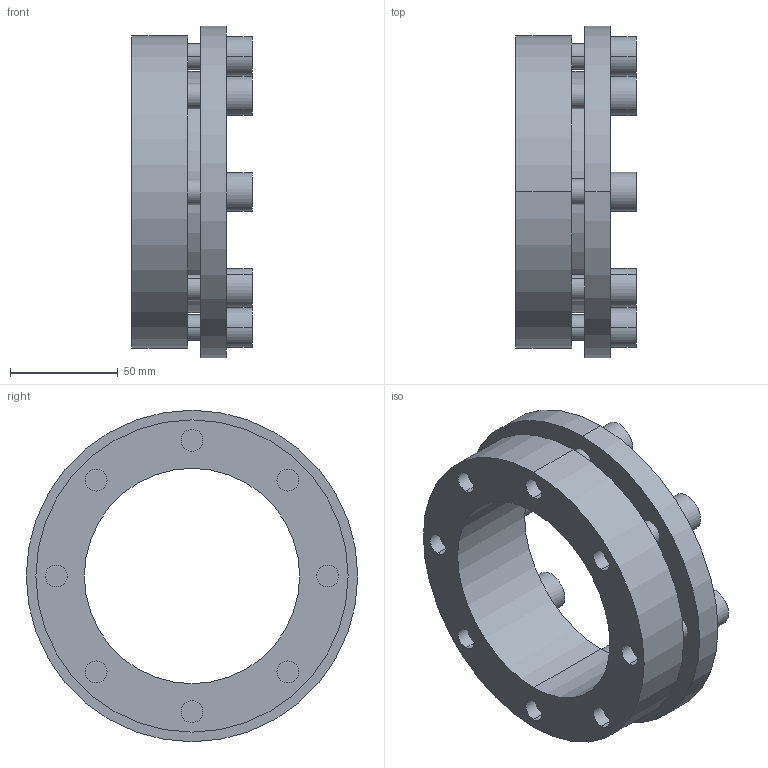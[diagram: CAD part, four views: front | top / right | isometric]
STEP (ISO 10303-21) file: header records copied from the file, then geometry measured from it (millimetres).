
FILE_DESCRIPTION (( 'STEP AP203' ), '1' );
FILE_NAME ('SES-100.step', '2009-09-29T16:35:22', ( 'USER' ), ( 'HOME' ), 'SwSTEP 2.0', 'SolidWorks 2007', '' );
FILE_SCHEMA (( 'CONFIG_CONTROL_DESIGN' ));
Length unit declared in the file: millimetre
Products named in the file (1): SES-100
Bounding box: 56 x 154 x 154 mm (x, y, z)
Volume: 398977.2 mm3; surface area: 97092.2 mm2
Topology: 9 solids, 9 shells, 156 faces, 360 edges, 240 vertices
Faces by surface type: plane 84, cylinder 72
Entity records: 4597 total; most frequent: DIRECTION 818, CARTESIAN_POINT 757, ORIENTED_EDGE 720, EDGE_CURVE 360, AXIS2_PLACEMENT_3D 301, VERTEX_POINT 240, VECTOR 216, LINE 216
